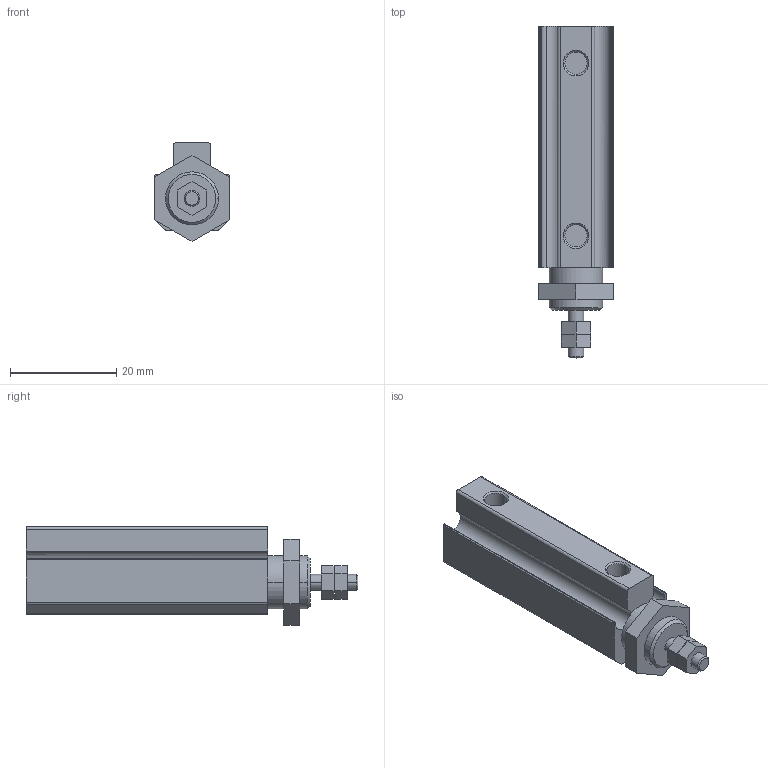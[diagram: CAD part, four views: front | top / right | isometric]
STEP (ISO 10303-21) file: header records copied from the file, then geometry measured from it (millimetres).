
FILE_DESCRIPTION((''),'2;1');
FILE_NAME('B:\CHANTO-3D-已完成\NEW\AAP\AAP-3D\AAP06X20.stp','2010-08-19T19:44:07',('Administrator'),(''),'Autodesk Inventor 8','Autodesk Inventor 8','');
FILE_SCHEMA(('AUTOMOTIVE_DESIGN { 1 0 10303 214 1 1 1 1 }'));
Length unit declared in the file: millimetre
Products named in the file (1): AAP06X20
Bounding box: 14 x 62.5 x 18.58 mm (x, y, z)
Volume: 8449.1 mm3; surface area: 4227.7 mm2
Topology: 1 solids, 1 shells, 81 faces, 198 edges, 128 vertices
Faces by surface type: plane 43, cylinder 30, cone 8
Entity records: 2415 total; most frequent: DIRECTION 438, CARTESIAN_POINT 408, ORIENTED_EDGE 396, EDGE_CURVE 198, AXIS2_PLACEMENT_3D 158, VERTEX_POINT 128, VECTOR 122, LINE 122
